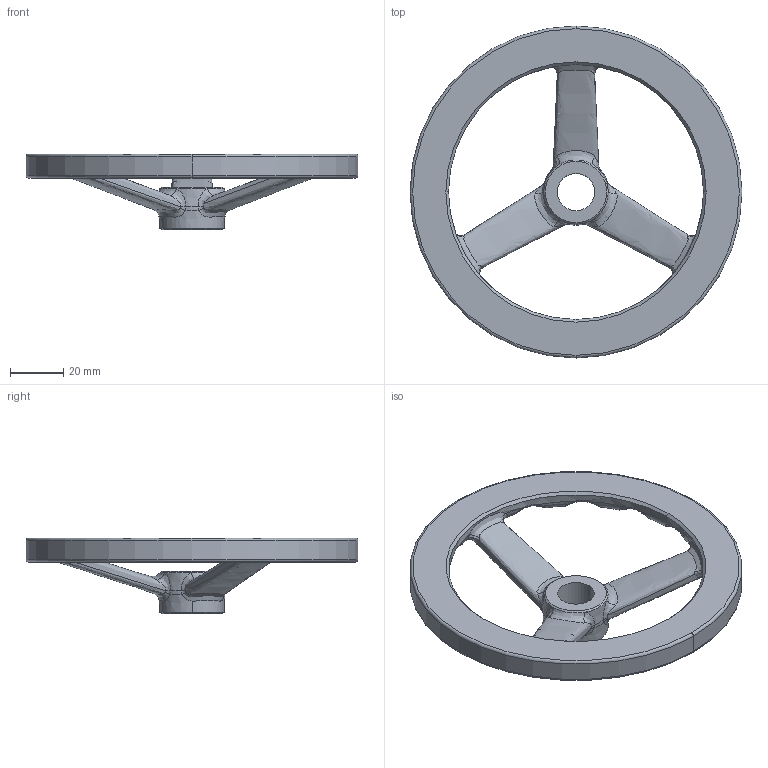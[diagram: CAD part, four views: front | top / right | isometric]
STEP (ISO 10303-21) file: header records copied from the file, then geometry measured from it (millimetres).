
FILE_DESCRIPTION (( 'STEP AP214' ), '1' );
FILE_NAME ('949-125-B14-A.step', '2025-04-11T06:01:21', ( '' ), ( '' ), 'SwSTEP 2.0', 'SolidWorks 2022', '' );
FILE_SCHEMA (( 'AUTOMOTIVE_DESIGN' ));
Length unit declared in the file: millimetre
Products named in the file (1): 949-125-B14-A
Bounding box: 125 x 125 x 28.5 mm (x, y, z)
Volume: 55303.3 mm3; surface area: 21433.5 mm2
Topology: 1 solids, 1 shells, 160 faces, 430 edges, 269 vertices
Faces by surface type: bspline 72, torus 40, sphere 24, cone 13, cylinder 6, plane 5
Entity records: 13516 total; most frequent: CARTESIAN_POINT 9958, ORIENTED_EDGE 860, DIRECTION 626, EDGE_CURVE 430, AXIS2_PLACEMENT_3D 305, VERTEX_POINT 269, CIRCLE 216, B_SPLINE_CURVE_WITH_KNOTS 198
